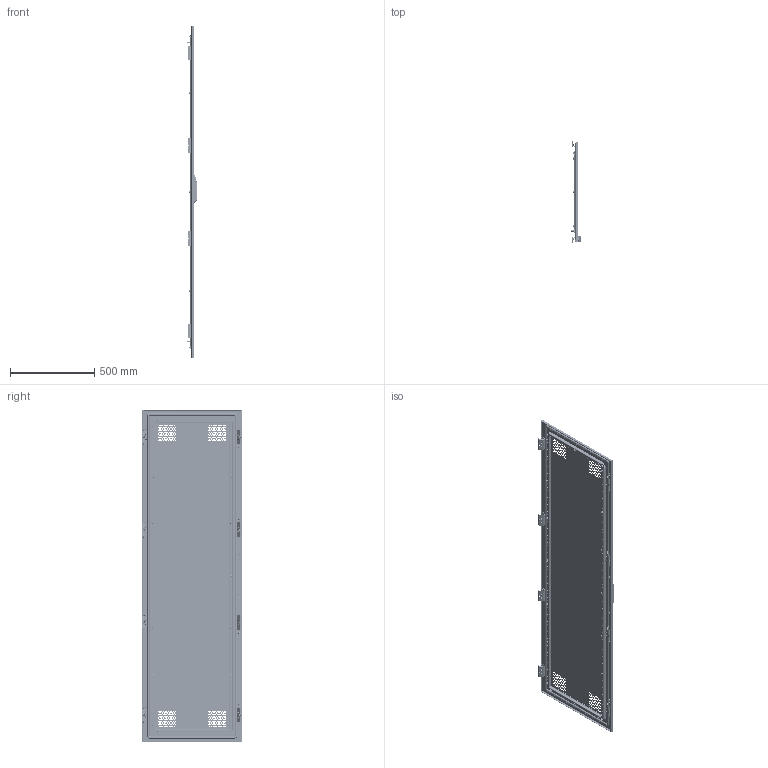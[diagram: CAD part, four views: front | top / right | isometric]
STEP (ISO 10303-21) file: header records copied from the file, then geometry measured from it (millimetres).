
FILE_DESCRIPTION(('STEP AP203'), '1');
FILE_NAME('3410.Ï Äâåðü ïåðôîðèðîâàííàÿ ÑÁ', '', ('UNSPECIFIED'), ('UNSPECIFIED'), 'C3D Converter', 'C3D Toolkit', '');
FILE_SCHEMA(('CONFIG_CONTROL_DESIGN'));
Length unit declared in the file: millimetre
Products named in the file (29): 3410.П.200.60 СБ; 3420.П; 3423; 3422.01; 3412; 3411; 868-000A_ASM; 868-000B; 868-000C; TS003-3; TS003-2; ёЗ豹X2\0435\X0\; 3009.05; 3009.05.01; 3622.01; 3009.08; 3009.08.01
Assembly tree (132 placements, depth 4):
  3410.П.200.60 СБ
    3420.П
      3423
      3422.01  x4
      (unnamed)  x18
      (unnamed)  x8
      (unnamed)  x2
    3412  x2
    3411  x2
    (unnamed)  x4
    (unnamed)  x20
    (unnamed)  x28
    (unnamed)  x8
    (unnamed)
      868-000A_ASM
        868-000B
        868-000C
        TS003-3
        TS003-2
        ёЗ豹X2\0435\X0\
      TS003-2
    (unnamed)  x2
    3009.05  x4
      3009.05.01
      (unnamed)
      (unnamed)
    3622.01  x4
    (unnamed)  x4
    3009.08  x4
      3009.08.01
      (unnamed)
      (unnamed)
Bounding box: 59.5 x 597.03 x 1971 mm (x, y, z)
Volume: 2634027.2 mm3; surface area: 3577430.8 mm2
Topology: 147 solids, 147 shells, 5073 faces, 12920 edges, 8352 vertices
Faces by surface type: plane 2676, cylinder 1526, cone 582, bspline 191, torus 87, sphere 11
Full cylindrical faces by diameter (mm): 0.5 x28, 4.134 x8, 4.3 x2, 4.5 x160, 4.917 x28, 5 x24, 5.2 x2, 5.8 x8, 6 x40, 6.1 x4, 6.6 x28, 6.75 x28, 7 x8, 7.3 x28, 7.5 x28, 8 x440, 8.3 x16, 8.5 x2, 9.2 x18, 10 x29, 10.5 x4, 12 x32, 13 x1, 15 x1, 20.7 x2, 21 x1
Entity records: 85698 total; most frequent: CARTESIAN_POINT 33483, DIRECTION 9154, ORIENTED_EDGE 8666, EDGE_CURVE 4333, AXIS2_PLACEMENT_3D 3647, EDGE_LOOP 3641, VERTEX_POINT 3156, FACE_BOUND 2411
